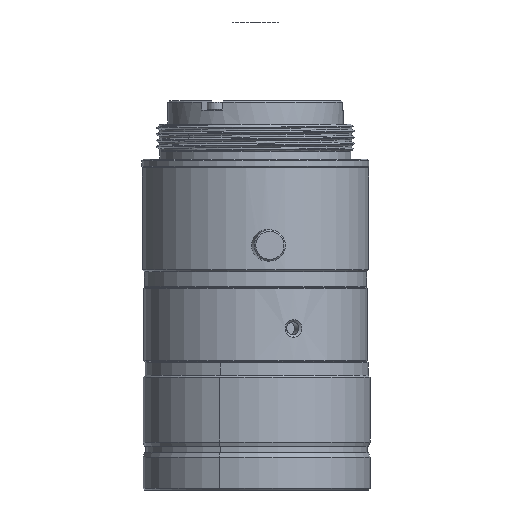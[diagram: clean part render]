
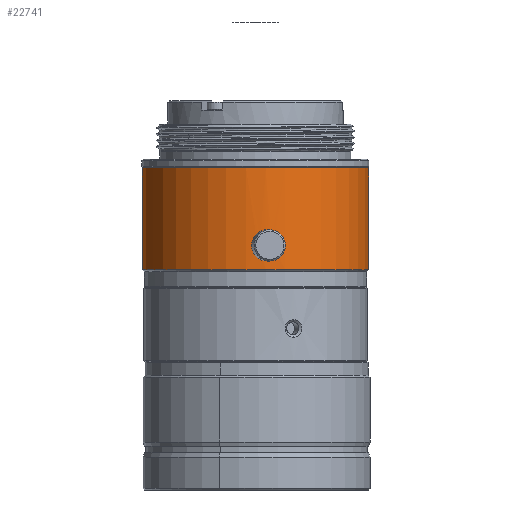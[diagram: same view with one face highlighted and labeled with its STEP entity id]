
A CAD part, left-side view. The second image highlights one B-rep face of the part: STEP entity #22741.
In plain terms, the highlighted cylindrical face has radius 14.5 mm (diameter 29 mm), a partial arc.
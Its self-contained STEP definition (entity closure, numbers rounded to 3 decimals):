
#22014=CARTESIAN_POINT('',(0.,0.,8.97));
#22015=DIRECTION('',(0.,0.,-1.));
#22016=DIRECTION('',(0.,-1.,0.));
#22017=AXIS2_PLACEMENT_3D('',#22014,#22015,#22016);
#22019=CARTESIAN_POINT('',(0.,0.,21.97));
#22020=DIRECTION('',(0.,0.,-1.));
#22021=DIRECTION('',(0.,-1.,0.));
#22022=AXIS2_PLACEMENT_3D('',#22019,#22020,#22021);
#22024=DIRECTION('',(0.,0.,-1.));
#22025=VECTOR('',#22024,13.);
#22026=CARTESIAN_POINT('',(0.,-14.5,
21.97));
#22027=LINE('',#22026,#22025);
#22028=DIRECTION('',(0.,0.,-1.));
#22029=VECTOR('',#22028,13.);
#22030=CARTESIAN_POINT('',(0.,14.5,
21.97));
#22031=LINE('',#22030,#22029);
#22032=CARTESIAN_POINT('',(-14.5,0.,
13.17));
#22033=CARTESIAN_POINT('',(-14.5,-0.098,
13.171));
#22034=CARTESIAN_POINT('',(-14.498,-0.297,
13.144));
#22035=CARTESIAN_POINT('',(-14.489,-0.574,
13.03));
#22036=CARTESIAN_POINT('',(-14.478,-0.809,
12.851));
#22037=CARTESIAN_POINT('',(-14.467,-0.988,
12.619));
#22038=CARTESIAN_POINT('',(-14.458,-1.099,
12.352));
#22039=CARTESIAN_POINT('',(-14.455,-1.136,
12.068));
#22040=CARTESIAN_POINT('',(-14.458,-1.098,
11.784));
#22041=CARTESIAN_POINT('',(-14.467,-0.986,
11.517));
#22042=CARTESIAN_POINT('',(-14.478,-0.806,
11.286));
#22043=CARTESIAN_POINT('',(-14.49,-0.57,
11.107));
#22044=CARTESIAN_POINT('',(-14.498,-0.291,
10.995));
#22045=CARTESIAN_POINT('',(-14.5,-0.096,
10.969));
#22046=CARTESIAN_POINT('',(-14.5,0.,
10.97));
#22048=CARTESIAN_POINT('',(-14.5,0.,
10.97));
#22049=CARTESIAN_POINT('',(-14.5,0.098,
10.969));
#22050=CARTESIAN_POINT('',(-14.498,0.297,
10.996));
#22051=CARTESIAN_POINT('',(-14.489,0.574,
11.11));
#22052=CARTESIAN_POINT('',(-14.478,0.809,
11.289));
#22053=CARTESIAN_POINT('',(-14.467,0.988,
11.521));
#22054=CARTESIAN_POINT('',(-14.458,1.099,
11.788));
#22055=CARTESIAN_POINT('',(-14.455,1.136,
12.072));
#22056=CARTESIAN_POINT('',(-14.458,1.098,
12.356));
#22057=CARTESIAN_POINT('',(-14.467,0.986,
12.623));
#22058=CARTESIAN_POINT('',(-14.478,0.806,
12.854));
#22059=CARTESIAN_POINT('',(-14.49,0.57,
13.033));
#22060=CARTESIAN_POINT('',(-14.498,0.291,
13.145));
#22061=CARTESIAN_POINT('',(-14.5,0.096,
13.171));
#22062=CARTESIAN_POINT('',(-14.5,0.,
13.17));
#22537=CARTESIAN_POINT('',(0.,-14.5,8.97));
#22539=VERTEX_POINT('',#22537);
#22541=CARTESIAN_POINT('',(0.,14.5,8.97));
#22543=VERTEX_POINT('',#22541);
#22553=CARTESIAN_POINT('',(0.,14.5,21.97));
#22554=CARTESIAN_POINT('',(0.,-14.5,21.97));
#22555=VERTEX_POINT('',#22553);
#22556=VERTEX_POINT('',#22554);
#22609=VERTEX_POINT('',#22032);
#22610=VERTEX_POINT('',#22046);
#22721=CARTESIAN_POINT('',(0.,0.,5.953));
#22722=DIRECTION('',(0.,0.,1.));
#22723=DIRECTION('',(0.,1.,0.));
#22724=AXIS2_PLACEMENT_3D('',#22721,#22722,#22723);
#22725=CYLINDRICAL_SURFACE('',#22724,14.5);
#22727=ORIENTED_EDGE('',*,*,#22726,.F.);
#22729=ORIENTED_EDGE('',*,*,#22728,.T.);
#22730=ORIENTED_EDGE('',*,*,#22716,.T.);
#22732=ORIENTED_EDGE('',*,*,#22731,.F.);
#22733=EDGE_LOOP('',(#22727,#22729,#22730,#22732));
#22734=FACE_OUTER_BOUND('',#22733,.F.);
#22736=ORIENTED_EDGE('',*,*,#22735,.F.);
#22738=ORIENTED_EDGE('',*,*,#22737,.F.);
#22739=EDGE_LOOP('',(#22736,#22738));
#22740=FACE_BOUND('',#22739,.F.);
#22741=ADVANCED_FACE('',(#22734,#22740),#22725,.T.);
#22018=CIRCLE('',#22017,14.5);
#22023=CIRCLE('',#22022,14.5);
#22047=B_SPLINE_CURVE_WITH_KNOTS('',3,(#22032,#22033,#22034,#22035,#22036,
#22037,#22038,#22039,#22040,#22041,#22042,#22043,#22044,#22045,#22046),
.UNSPECIFIED.,.F.,.F.,(4,1,1,1,1,1,1,1,1,1,1,1,4),(0.,0.083,
0.167,0.25,0.333,0.417,
0.5,0.583,0.667,0.75,
0.833,0.917,1.),.UNSPECIFIED.);
#22063=B_SPLINE_CURVE_WITH_KNOTS('',3,(#22048,#22049,#22050,#22051,#22052,
#22053,#22054,#22055,#22056,#22057,#22058,#22059,#22060,#22061,#22062),
.UNSPECIFIED.,.F.,.F.,(4,1,1,1,1,1,1,1,1,1,1,1,4),(0.,0.083,
0.167,0.25,0.333,0.417,
0.5,0.583,0.667,0.75,
0.833,0.917,1.),.UNSPECIFIED.);
#22716=EDGE_CURVE('',#22539,#22543,#22018,.T.);
#22726=EDGE_CURVE('',#22556,#22555,#22023,.T.);
#22728=EDGE_CURVE('',#22556,#22539,#22027,.T.);
#22731=EDGE_CURVE('',#22555,#22543,#22031,.T.);
#22735=EDGE_CURVE('',#22609,#22610,#22047,.T.);
#22737=EDGE_CURVE('',#22610,#22609,#22063,.T.);
